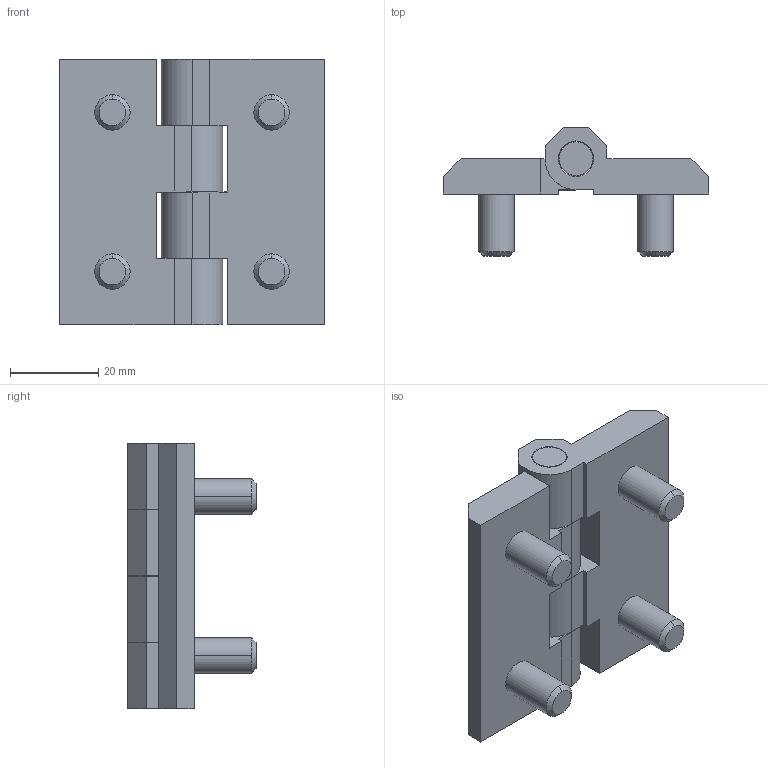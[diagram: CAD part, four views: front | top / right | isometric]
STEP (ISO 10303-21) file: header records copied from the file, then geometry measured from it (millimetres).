
FILE_DESCRIPTION (( 'STEP AP203' ), '1' );
FILE_NAME ('XG02-067-1A.STEP', '2023-12-09T09:09:48', ( '' ), ( '' ), 'SwSTEP 2.0', 'SolidWorks 2020', '' );
FILE_SCHEMA (( 'CONFIG_CONTROL_DESIGN' ));
Length unit declared in the file: millimetre
Products named in the file (4): 1A2; XG02-067-1A; 錨璃2; 1A
Assembly tree (3 placements, depth 2):
  XG02-067-1A
    1A
    1A2
    錨璃2
Bounding box: 60 x 29 x 60 mm (x, y, z)
Volume: 33415 mm3; surface area: 15172.2 mm2
Topology: 3 solids, 3 shells, 86 faces, 228 edges, 152 vertices
Faces by surface type: plane 56, cylinder 22, cone 8
Entity records: 3102 total; most frequent: CARTESIAN_POINT 472, DIRECTION 472, ORIENTED_EDGE 456, EDGE_CURVE 228, LINE 168, VECTOR 168, VERTEX_POINT 152, AXIS2_PLACEMENT_3D 152
